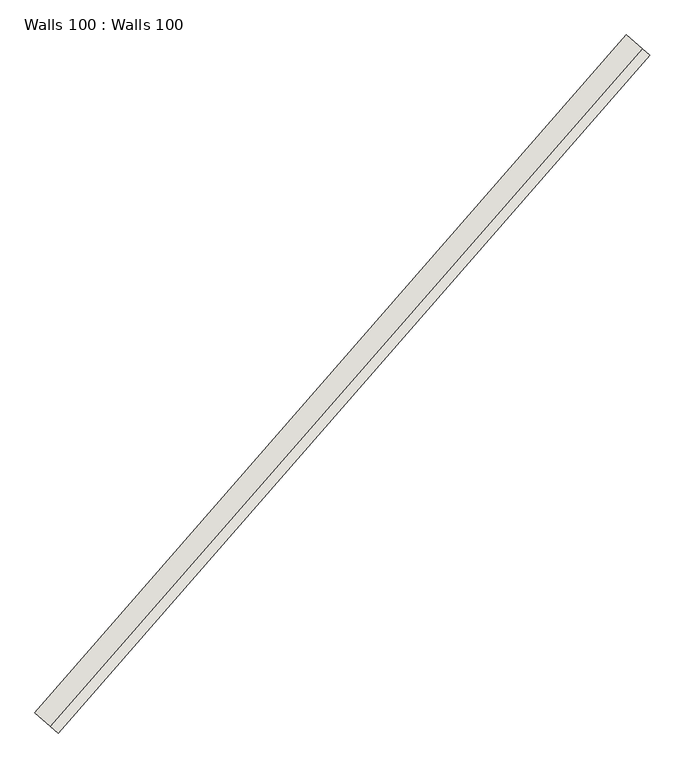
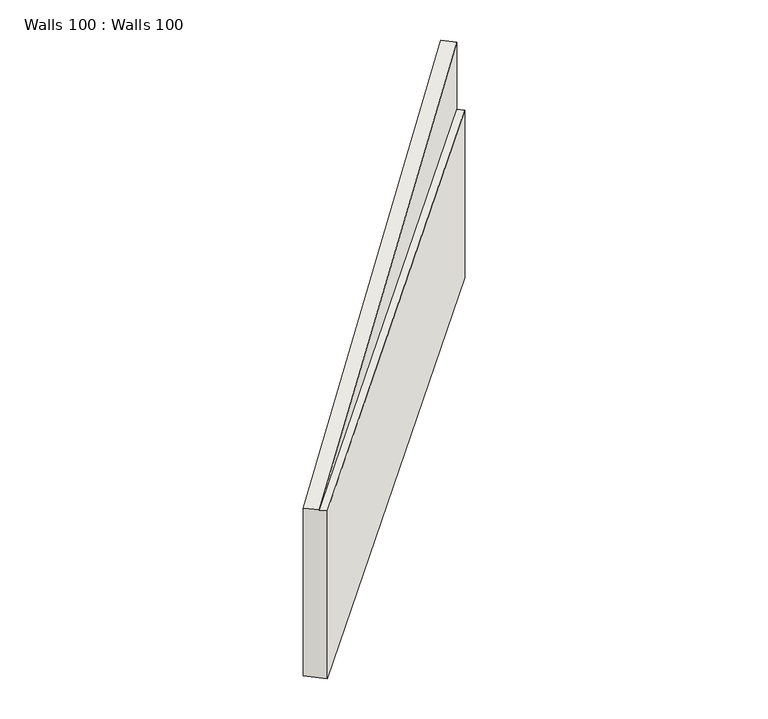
"""IFC4 building model written with IfcOpenShell, lengths in millimetres: wall geometry, Walls 100 : Walls 100."""

from ifc_helpers import new_model, si_unit, origin, place, context, project, spatial, faceted_brep, source, transform, mapped, element, save


def walls_100_walls_100_3f1e3667(model_context):
    return source(origin(), model_context, "Body", "Brep", [
        faceted_brep([(548805.0415016, 456285.9933349, 657067.0), (548880.3771099, 456220.2320536, 657067.0), (548880.3771099, 456220.2320536, 654567.0), (548654.370285, 456417.5158976, 654567.0), (548654.370285, 456417.5158976, 658067.0), (548805.0415016, 456285.9933349, 658067.0), (543083.8100239, 449731.7954148, 657067.0), (543083.8100239, 449731.7954148, 657068.0), (542933.1388074, 449863.3179775, 657068.0), (542933.1388074, 449863.3179775, 654567.0), (543159.1456322, 449666.0341335, 654567.0), (543159.1456322, 449666.0341335, 657067.0)], [[[0, 1, 2, 3, 4, 5]], [[6, 7, 8, 9, 10, 11]], [[6, 11, 1, 0]], [[11, 10, 2, 1]], [[10, 9, 3, 2]], [[9, 8, 4, 3]], [[8, 7, 5, 4]], [[7, 6, 0, 5]]]),
    ])


if __name__ == "__main__":
    model = new_model("IFC4")
    model_context = context("Model", 3, world=origin())
    ifc_project = project(units=[si_unit("LENGTHUNIT", "METRE", prefix="MILLI")], contexts=[model_context])
    site = spatial("IfcSite", under=ifc_project)
    building = spatial("IfcBuilding", under=site)
    placement = place(None, origin())
    walls_100_walls_100_shape = walls_100_walls_100_3f1e3667(model_context)
    element("IfcWall", 1, ObjectType="Walls 100 : Walls 100", at=placement, inside=building, context=model_context, shape_type="MappedRepresentation", body=[
        mapped(walls_100_walls_100_shape, transform((0.0, 0.0, 0.0), x_axis=(1.0, 0.0, 0.0), y_axis=(0.0, 1.0, 0.0), z_axis=(0.0, 0.0, 1.0))),
    ])
    save(model, "model.ifc")
